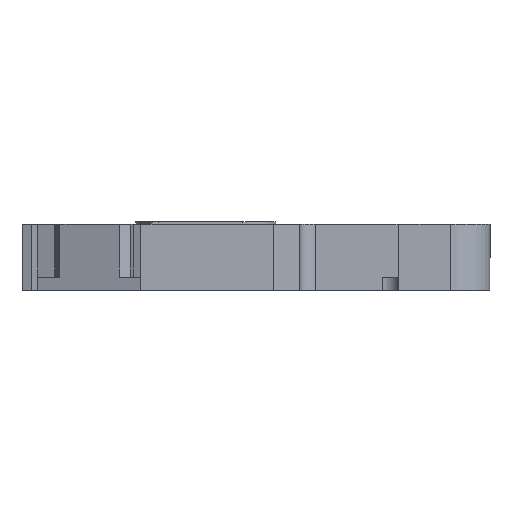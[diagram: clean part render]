
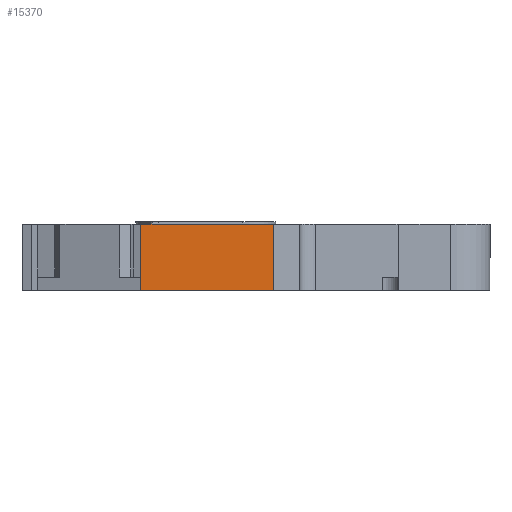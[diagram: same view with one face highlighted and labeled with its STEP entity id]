
A CAD part, left-side view. The second image highlights one B-rep face of the part: STEP entity #15370.
In plain terms, the highlighted planar face has unit normal (-1, 0, 0).
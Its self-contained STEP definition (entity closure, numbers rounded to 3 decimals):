
#58 = CARTESIAN_POINT ( 'NONE',  ( -43.6, 9.5, 5. ) ) ;
#839 = CARTESIAN_POINT ( 'NONE',  ( -43.6, 9.5, 0. ) ) ;
#1056 = PLANE ( 'NONE',  #9272 ) ;
#1310 = FACE_OUTER_BOUND ( 'NONE', #9172, .T. ) ;
#1662 = VECTOR ( 'NONE', #14411, 1000. ) ;
#1714 = ORIENTED_EDGE ( 'NONE', *, *, #15179, .F. ) ;
#1759 = LINE ( 'NONE', #13677, #1662 ) ;
#2059 = CARTESIAN_POINT ( 'NONE',  ( -43.6, 19.5, 5. ) ) ;
#2064 = LINE ( 'NONE', #58, #8808 ) ;
#2760 = LINE ( 'NONE', #11439, #13428 ) ;
#2923 = EDGE_CURVE ( 'NONE', #12018, #9533, #2064, .T. ) ;
#3032 = ORIENTED_EDGE ( 'NONE', *, *, #3915, .T. ) ;
#3519 = DIRECTION ( 'NONE',  ( 0., 0., -1. ) ) ;
#3834 = VERTEX_POINT ( 'NONE', #7614 ) ;
#3915 = EDGE_CURVE ( 'NONE', #10298, #9533, #5640, .T. ) ;
#5640 = LINE ( 'NONE', #15301, #10293 ) ;
#6090 = ORIENTED_EDGE ( 'NONE', *, *, #15076, .T. ) ;
#6384 = ORIENTED_EDGE ( 'NONE', *, *, #2923, .F. ) ;
#6535 = DIRECTION ( 'NONE',  ( -1., 0., 0. ) ) ;
#7614 = CARTESIAN_POINT ( 'NONE',  ( -43.6, 19.5, 5. ) ) ;
#8808 = VECTOR ( 'NONE', #11987, 1000. ) ;
#8867 = DIRECTION ( 'NONE',  ( 0., -1., 0. ) ) ;
#9172 = EDGE_LOOP ( 'NONE', ( #3032, #6384, #1714, #6090 ) ) ;
#9272 = AXIS2_PLACEMENT_3D ( 'NONE', #2059, #6535, #10756 ) ;
#9533 = VERTEX_POINT ( 'NONE', #839 ) ;
#10102 = CARTESIAN_POINT ( 'NONE',  ( -43.6, 19.5, 0. ) ) ;
#10293 = VECTOR ( 'NONE', #8867, 1000. ) ;
#10298 = VERTEX_POINT ( 'NONE', #10102 ) ;
#10756 = DIRECTION ( 'NONE',  ( 0., 0., 1. ) ) ;
#11439 = CARTESIAN_POINT ( 'NONE',  ( -43.6, 19.5, 5. ) ) ;
#11987 = DIRECTION ( 'NONE',  ( 0., 0., -1. ) ) ;
#12018 = VERTEX_POINT ( 'NONE', #13975 ) ;
#13428 = VECTOR ( 'NONE', #3519, 1000. ) ;
#13677 = CARTESIAN_POINT ( 'NONE',  ( -43.6, 14.508, 5. ) ) ;
#13975 = CARTESIAN_POINT ( 'NONE',  ( -43.6, 9.5, 5. ) ) ;
#14411 = DIRECTION ( 'NONE',  ( 0., -1., 0. ) ) ;
#15076 = EDGE_CURVE ( 'NONE', #3834, #10298, #2760, .T. ) ;
#15179 = EDGE_CURVE ( 'NONE', #3834, #12018, #1759, .T. ) ;
#15301 = CARTESIAN_POINT ( 'NONE',  ( -43.6, 19.5, 0. ) ) ;
#15370 = ADVANCED_FACE ( 'NONE', ( #1310 ), #1056, .T. ) ;
